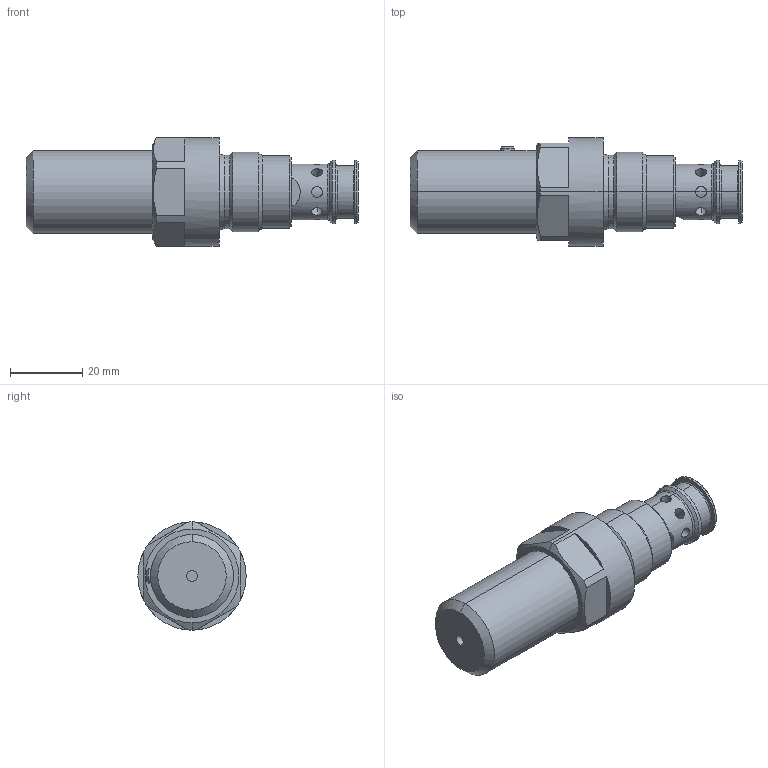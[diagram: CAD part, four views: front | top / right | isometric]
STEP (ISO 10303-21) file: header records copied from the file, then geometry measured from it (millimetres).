
FILE_DESCRIPTION (( 'STEP AP214' ), '1' );
FILE_NAME ('BKAPM22.STEP', '2021-08-23T12:09:15', ( '' ), ( '' ), 'SwSTEP 2.0', 'SolidWorks 2020', '' );
FILE_SCHEMA (( 'AUTOMOTIVE_DESIGN' ));
Length unit declared in the file: millimetre
Products named in the file (1): BKAPM22
Bounding box: 92 x 30 x 30 mm (x, y, z)
Volume: 36859.7 mm3; surface area: 8278.5 mm2
Topology: 1 solids, 1 shells, 118 faces, 275 edges, 171 vertices
Faces by surface type: cylinder 50, plane 40, cone 22, torus 6
Entity records: 5508 total; most frequent: CARTESIAN_POINT 1526, DIRECTION 550, ORIENTED_EDGE 546, EDGE_CURVE 273, AXIS2_PLACEMENT_3D 217, VERTEX_POINT 171, EDGE_LOOP 132, UNCERTAINTY_MEASURE_WITH_UNIT 121
